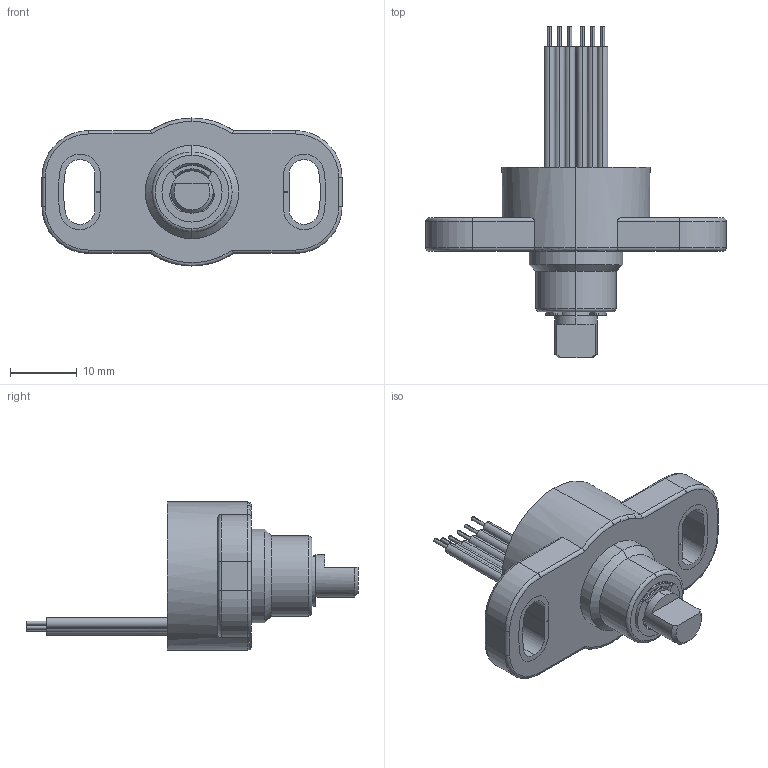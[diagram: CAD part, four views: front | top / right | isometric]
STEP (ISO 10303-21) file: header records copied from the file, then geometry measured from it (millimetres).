
FILE_DESCRIPTION (( 'STEP AP203' ), '1' );
FILE_NAME ('雙耳帶軸.STEP', '2019-07-30T08:10:49', ( '' ), ( '' ), 'SwSTEP 2.0', 'SolidWorks 2019', '' );
FILE_SCHEMA (( 'CONFIG_CONTROL_DESIGN' ));
Length unit declared in the file: millimetre
Products named in the file (21): C Retaining Ring_M10_M10; D22_HS_Shaft_dd_285S0019_6.35_Pride; Hall Effect Position Sensor IC_MLX90316_OR_HAL3625_Micronas_Supplier_3625; glue_0011; OEM_Hall_Effect282SORing270860010104_HallEffect_ID3; 285S0011cable_SU3; ferroshield_0011c_v2; Magnet_Size_D6x2.2; 鏡射285S0011cable_SU3; 雙耳帶軸; 285_Housing_EARS_285 SPII; D22_StopPlate_Pocket_dd3_ferro_v2_360; solder; ferroshield_0011bs2_285-57-006; 22D_HS_ShaftMagnetStoper Subassembling_dd_285S0019_Pride 6.35; 285_PCB_SubAssembly_dd_285S0011_SU3; 285_EARS_insert; 285PCB_ferro_v3_dual; H1SI_0405_6.35; 22D_HS_BushingHousing Subassembling_dd_285S0019 SPII; Capacitor
Assembly tree (28 placements, depth 3):
  雙耳帶軸
    22D_HS_BushingHousing Subassembling_dd_285S0019 SPII
      285_Housing_EARS_285 SPII
      ferroshield_0011bs2_285-57-006
      285_EARS_insert  x2
    22D_HS_ShaftMagnetStoper Subassembling_dd_285S0019_Pride 6.35
      D22_HS_Shaft_dd_285S0019_6.35_Pride
      OEM_Hall_Effect282SORing270860010104_HallEffect_ID3
      Magnet_Size_D6x2.2
      D22_StopPlate_Pocket_dd3_ferro_v2_360
    285_PCB_SubAssembly_dd_285S0011_SU3
      285PCB_ferro_v3_dual
      Capacitor  x4
      Hall Effect Position Sensor IC_MLX90316_OR_HAL3625_Micronas_Supplier_3625
      285S0011cable_SU3
      鏡射285S0011cable_SU3
      solder  x5
    H1SI_0405_6.35
    C Retaining Ring_M10_M10
    glue_0011
    ferroshield_0011c_v2
Bounding box: 45 x 49.78 x 22.2 mm (x, y, z)
Volume: 7718 mm3; surface area: 11761.1 mm2
Topology: 26 solids, 26 shells, 1197 faces, 3096 edges, 2020 vertices
Faces by surface type: plane 629, cylinder 440, cone 71, torus 41, bspline 16
Entity records: 36561 total; most frequent: CARTESIAN_POINT 7391, DIRECTION 5650, ORIENTED_EDGE 5564, EDGE_CURVE 2782, AXIS2_PLACEMENT_3D 1975, VERTEX_POINT 1816, VECTOR 1700, LINE 1700
